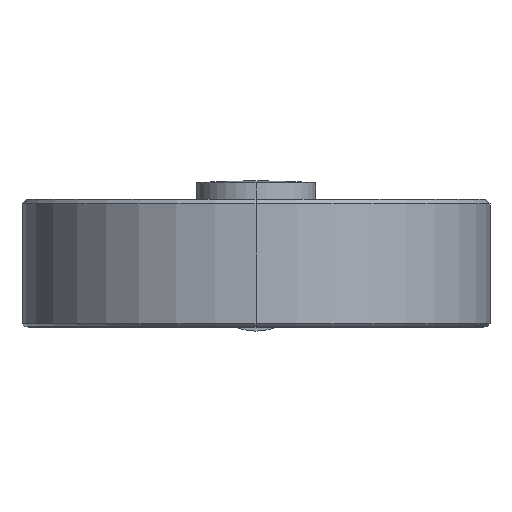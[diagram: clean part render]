
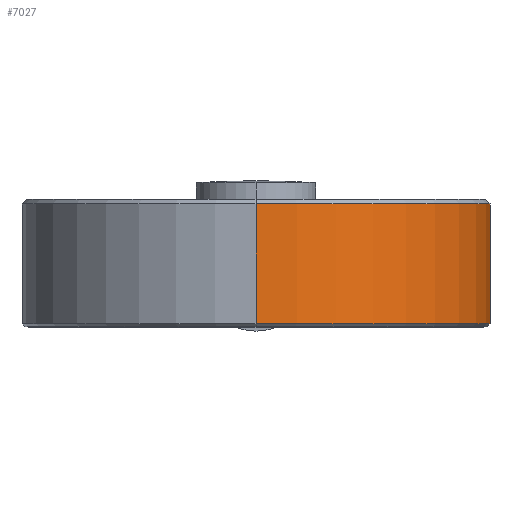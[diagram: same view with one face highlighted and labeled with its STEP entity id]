
A CAD part, top view. The second image highlights one B-rep face of the part: STEP entity #7027.
In plain terms, the highlighted cylindrical face has radius 15.875 mm (diameter 31.75 mm), a partial arc.
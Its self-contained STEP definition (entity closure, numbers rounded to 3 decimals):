
#7011 = EDGE_LOOP ( 'NONE', ( #7431, #7433, #7451, #7467, #7455, #7445, #7452 ) ) ;
#7027 = ADVANCED_FACE ( 'NONE', ( #13894 ), #13924, .T. ) ;
#7092 = EDGE_CURVE ( 'NONE', #7370, #7368, #12314, .T. ) ;
#7108 = EDGE_CURVE ( 'NONE', #7361, #7383, #12385, .T. ) ;
#7109 = EDGE_CURVE ( 'NONE', #7427, #7383, #9172, .T. ) ;
#7115 = EDGE_CURVE ( 'NONE', #7368, #13935, #9311, .T. ) ;
#7164 = EDGE_CURVE ( 'NONE', #7361, #7370, #9372, .T. ) ;
#7191 = EDGE_CURVE ( 'NONE', #7423, #7427, #9177, .T. ) ;
#7192 = EDGE_CURVE ( 'NONE', #7423, #13935, #11630, .T. ) ;
#7361 = VERTEX_POINT ( 'NONE', #11771 ) ;
#7368 = VERTEX_POINT ( 'NONE', #11780 ) ;
#7370 = VERTEX_POINT ( 'NONE', #11762 ) ;
#7383 = VERTEX_POINT ( 'NONE', #11791 ) ;
#7423 = VERTEX_POINT ( 'NONE', #11821 ) ;
#7427 = VERTEX_POINT ( 'NONE', #11824 ) ;
#7431 = ORIENTED_EDGE ( 'NONE', *, *, #7164, .T. ) ;
#7433 = ORIENTED_EDGE ( 'NONE', *, *, #7092, .T. ) ;
#7445 = ORIENTED_EDGE ( 'NONE', *, *, #7109, .T. ) ;
#7451 = ORIENTED_EDGE ( 'NONE', *, *, #7115, .T. ) ;
#7452 = ORIENTED_EDGE ( 'NONE', *, *, #7108, .F. ) ;
#7455 = ORIENTED_EDGE ( 'NONE', *, *, #7191, .T. ) ;
#7467 = ORIENTED_EDGE ( 'NONE', *, *, #7192, .F. ) ;
#8201 = DIRECTION ( 'NONE',  ( 0., 0., -1. ) ) ;
#8250 = DIRECTION ( 'NONE',  ( 0., -1., 0. ) ) ;
#9172 = B_SPLINE_CURVE_WITH_KNOTS ( 'NONE', 3,
 ( #12388, #12384, #12383, #12390, #12391, #12392, #12393, #12394, #12395, #12396, #12397, #12398, #12399, #12400, #12401, #12402 ),
 .UNSPECIFIED., .F., .F.,
 ( 4, 2, 2, 2, 2, 2, 2, 4 ),
 ( 0.011, 0.012, 0.012, 0.013, 0.013, 0.014, 0.015, 0.015 ),
 .UNSPECIFIED. ) ;
#9177 = B_SPLINE_CURVE_WITH_KNOTS ( 'NONE', 3,
 ( #11610, #11615, #11616, #11617, #11618, #11619, #11620, #11621, #11622, #11623, #11624, #11625, #11626, #11627, #11628, #11629 ),
 .UNSPECIFIED., .F., .F.,
 ( 4, 2, 2, 2, 2, 2, 2, 4 ),
 ( 0.008, 0.008, 0.009, 0.009, 0.01, 0.01, 0.011, 0.011 ),
 .UNSPECIFIED. ) ;
#9251 = VECTOR ( 'NONE', #12322, 1000. ) ;
#9304 = VECTOR ( 'NONE', #12387, 1000. ) ;
#9311 = CIRCLE ( 'NONE', #9313, 15.875 ) ;
#9313 = AXIS2_PLACEMENT_3D ( 'NONE', #12429, #12430, #12431 ) ;
#9372 = CIRCLE ( 'NONE', #9377, 15.875 ) ;
#9377 = AXIS2_PLACEMENT_3D ( 'NONE', #12591, #12592, #12593 ) ;
#9406 = VECTOR ( 'NONE', #11632, 1000. ) ;
#11610 = CARTESIAN_POINT ( 'NONE',  ( 0., 1.2, -15.875 ) ) ;
#11615 = CARTESIAN_POINT ( 'NONE',  ( 0.314, 1.2, -15.875 ) ) ;
#11616 = CARTESIAN_POINT ( 'NONE',  ( 0.63, 1.263, -15.865 ) ) ;
#11617 = CARTESIAN_POINT ( 'NONE',  ( 1.063, 1.443, -15.84 ) ) ;
#11618 = CARTESIAN_POINT ( 'NONE',  ( 1.203, 1.517, -15.83 ) ) ;
#11619 = CARTESIAN_POINT ( 'NONE',  ( 1.465, 1.693, -15.808 ) ) ;
#11620 = CARTESIAN_POINT ( 'NONE',  ( 1.586, 1.792, -15.796 ) ) ;
#11621 = CARTESIAN_POINT ( 'NONE',  ( 1.807, 2.013, -15.772 ) ) ;
#11622 = CARTESIAN_POINT ( 'NONE',  ( 1.908, 2.136, -15.76 ) ) ;
#11623 = CARTESIAN_POINT ( 'NONE',  ( 2.083, 2.397, -15.738 ) ) ;
#11624 = CARTESIAN_POINT ( 'NONE',  ( 2.156, 2.535, -15.728 ) ) ;
#11625 = CARTESIAN_POINT ( 'NONE',  ( 2.277, 2.825, -15.711 ) ) ;
#11626 = CARTESIAN_POINT ( 'NONE',  ( 2.323, 2.978, -15.704 ) ) ;
#11627 = CARTESIAN_POINT ( 'NONE',  ( 2.384, 3.285, -15.695 ) ) ;
#11628 = CARTESIAN_POINT ( 'NONE',  ( 2.4, 3.441, -15.693 ) ) ;
#11629 = CARTESIAN_POINT ( 'NONE',  ( 2.4, 3.6, -15.693 ) ) ;
#11630 = LINE ( 'NONE', #11631, #9406 ) ;
#11631 = CARTESIAN_POINT ( 'NONE',  ( 0., 0., -15.875 ) ) ;
#11632 = DIRECTION ( 'NONE',  ( 0., -1., 0. ) ) ;
#11762 = CARTESIAN_POINT ( 'NONE',  ( 0., 8.34, 15.875 ) ) ;
#11771 = CARTESIAN_POINT ( 'NONE',  ( 0., 8.34, -15.875 ) ) ;
#11780 = CARTESIAN_POINT ( 'NONE',  ( 0., 0.2, 15.875 ) ) ;
#11791 = CARTESIAN_POINT ( 'NONE',  ( 0., 6., -15.875 ) ) ;
#11821 = CARTESIAN_POINT ( 'NONE',  ( 0., 1.2, -15.875 ) ) ;
#11824 = CARTESIAN_POINT ( 'NONE',  ( 2.4, 3.6, -15.693 ) ) ;
#11839 = CARTESIAN_POINT ( 'NONE',  ( 0., 0.2, -15.875 ) ) ;
#12313 = CARTESIAN_POINT ( 'NONE',  ( 0., 0., 15.875 ) ) ;
#12314 = LINE ( 'NONE', #12313, #9251 ) ;
#12322 = DIRECTION ( 'NONE',  ( 0., -1., 0. ) ) ;
#12383 = CARTESIAN_POINT ( 'NONE',  ( 2.384, 3.914, -15.695 ) ) ;
#12384 = CARTESIAN_POINT ( 'NONE',  ( 2.4, 3.759, -15.693 ) ) ;
#12385 = LINE ( 'NONE', #12386, #9304 ) ;
#12386 = CARTESIAN_POINT ( 'NONE',  ( 0., 0., -15.875 ) ) ;
#12387 = DIRECTION ( 'NONE',  ( 0., -1., 0. ) ) ;
#12388 = CARTESIAN_POINT ( 'NONE',  ( 2.4, 3.6, -15.693 ) ) ;
#12390 = CARTESIAN_POINT ( 'NONE',  ( 2.323, 4.221, -15.704 ) ) ;
#12391 = CARTESIAN_POINT ( 'NONE',  ( 2.277, 4.374, -15.711 ) ) ;
#12392 = CARTESIAN_POINT ( 'NONE',  ( 2.157, 4.664, -15.728 ) ) ;
#12393 = CARTESIAN_POINT ( 'NONE',  ( 2.083, 4.802, -15.738 ) ) ;
#12394 = CARTESIAN_POINT ( 'NONE',  ( 1.909, 5.063, -15.76 ) ) ;
#12395 = CARTESIAN_POINT ( 'NONE',  ( 1.808, 5.186, -15.772 ) ) ;
#12396 = CARTESIAN_POINT ( 'NONE',  ( 1.477, 5.517, -15.808 ) ) ;
#12397 = CARTESIAN_POINT ( 'NONE',  ( 1.21, 5.696, -15.831 ) ) ;
#12398 = CARTESIAN_POINT ( 'NONE',  ( 0.777, 5.876, -15.857 ) ) ;
#12399 = CARTESIAN_POINT ( 'NONE',  ( 0.625, 5.922, -15.863 ) ) ;
#12400 = CARTESIAN_POINT ( 'NONE',  ( 0.316, 5.984, -15.873 ) ) ;
#12401 = CARTESIAN_POINT ( 'NONE',  ( 0.159, 6., -15.875 ) ) ;
#12402 = CARTESIAN_POINT ( 'NONE',  ( 0., 6., -15.875 ) ) ;
#12429 = CARTESIAN_POINT ( 'NONE',  ( 0., 0.2, 0. ) ) ;
#12430 = DIRECTION ( 'NONE',  ( 0., 1., 0. ) ) ;
#12431 = DIRECTION ( 'NONE',  ( 0., 0., 1. ) ) ;
#12591 = CARTESIAN_POINT ( 'NONE',  ( 0., 8.34, 0. ) ) ;
#12592 = DIRECTION ( 'NONE',  ( 0., -1., 0. ) ) ;
#12593 = DIRECTION ( 'NONE',  ( 0., 0., -1. ) ) ;
#13890 = CARTESIAN_POINT ( 'NONE',  ( 0., 0., 0. ) ) ;
#13894 = FACE_OUTER_BOUND ( 'NONE', #7011, .T. ) ;
#13924 = CYLINDRICAL_SURFACE ( 'NONE', #14643, 15.875 ) ;
#13935 = VERTEX_POINT ( 'NONE', #11839 ) ;
#14643 = AXIS2_PLACEMENT_3D ( 'NONE', #13890, #8250, #8201 ) ;
